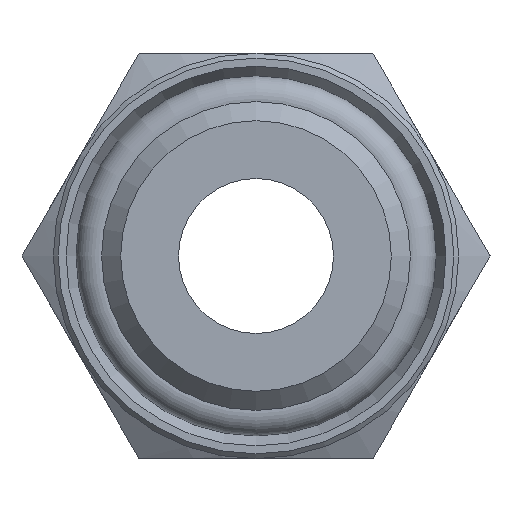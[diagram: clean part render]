
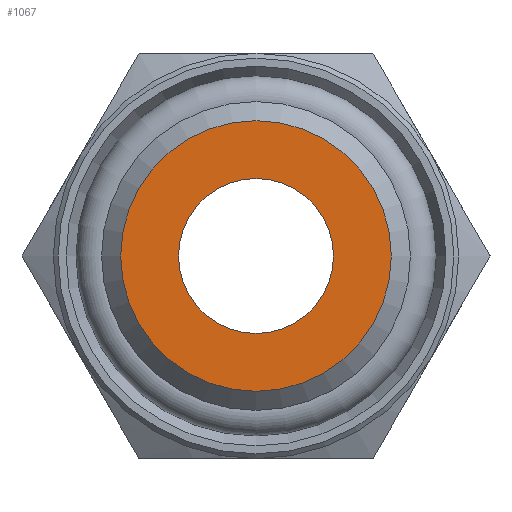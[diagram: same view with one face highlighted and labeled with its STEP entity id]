
A CAD part, front view. The second image highlights one B-rep face of the part: STEP entity #1067.
In plain terms, the highlighted planar face has unit normal (0, -1, 0).
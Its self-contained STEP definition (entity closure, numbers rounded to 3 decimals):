
#1033=CARTESIAN_POINT('',(-3.25,0.,0.0));
#1034=VERTEX_POINT('',#1033);
#1035=CARTESIAN_POINT('',(0.0,0.,0.0));
#1036=DIRECTION('',(0.0,1.0,0.0));
#1037=DIRECTION('',(-1.0,0.0,0.0));
#1038=AXIS2_PLACEMENT_3D('',#1035,#1036,#1037);
#1039=CIRCLE('',#1038,3.25);
#1040=EDGE_CURVE('',#1034,#1034,#1039,.T.);
#1048=CARTESIAN_POINT('',(-4.463,0.,0.0));
#1049=DIRECTION('',(0.0,-1.0,0.0));
#1050=DIRECTION('',(0.0,0.0,-1.0));
#1051=AXIS2_PLACEMENT_3D('',#1048,#1049,#1050);
#1052=PLANE('',#1051);
#1053=CARTESIAN_POINT('',(-5.675,0.,0.0));
#1054=VERTEX_POINT('',#1053);
#1055=CARTESIAN_POINT('',(0.0,0.,0.0));
#1056=DIRECTION('',(0.0,1.0,0.0));
#1057=DIRECTION('',(-1.0,0.0,0.0));
#1058=AXIS2_PLACEMENT_3D('',#1055,#1056,#1057);
#1059=CIRCLE('',#1058,5.675);
#1060=EDGE_CURVE('',#1054,#1054,#1059,.T.);
#1061=ORIENTED_EDGE('',*,*,#1060,.F.);
#1062=EDGE_LOOP('',(#1061));
#1063=FACE_OUTER_BOUND('',#1062,.T.);
#1064=ORIENTED_EDGE('',*,*,#1040,.T.);
#1065=EDGE_LOOP('',(#1064));
#1066=FACE_BOUND('',#1065,.T.);
#1067=ADVANCED_FACE('',(#1063,#1066),#1052,.T.);
